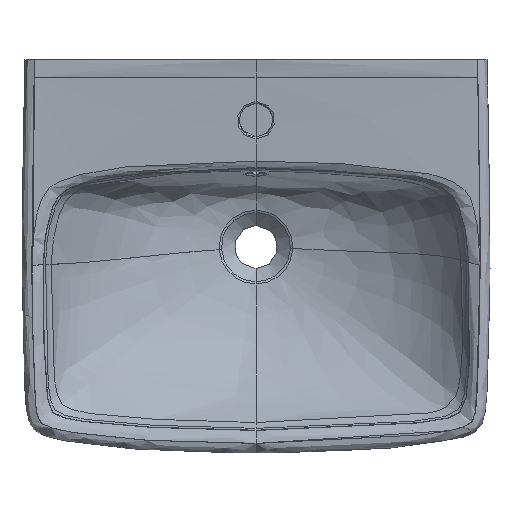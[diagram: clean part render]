
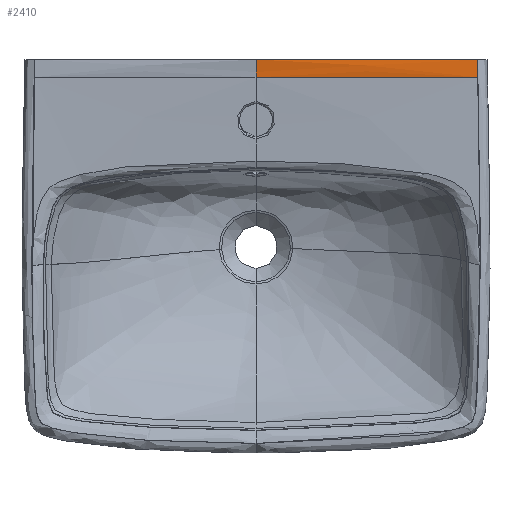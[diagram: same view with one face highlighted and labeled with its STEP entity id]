
A CAD part, top view. The second image highlights one B-rep face of the part: STEP entity #2410.
In plain terms, the highlighted free-form (B-spline) face has degree [3, 3] with [4, 5] control points.
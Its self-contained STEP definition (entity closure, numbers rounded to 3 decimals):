
#110=B_SPLINE_CURVE_WITH_KNOTS('',3,(#3652,#3653,#3654,#3655,#3656),
 .UNSPECIFIED.,.F.,.F.,(4,1,4),(0.,0.5,1.),
 .UNSPECIFIED.);
#255=B_SPLINE_CURVE_WITH_KNOTS('',3,(#43324,#43325,#43326,#43327,#43328,
#43329,#43330,#43331,#43332,#43333,#43334,#43335,#43336,#43337,#43338,#43339,
#43340,#43341,#43342,#43343,#43344,#43345,#43346,#43347,#43348,#43349,#43350,
#43351),.UNSPECIFIED.,.F.,.F.,(4,3,3,3,3,3,3,3,3,4),(0.,2.503,
5.495,8.686,11.3,11.877,11.877,
15.341,19.998,23.653),.UNSPECIFIED.);
#258=B_SPLINE_CURVE_WITH_KNOTS('',3,(#44413,#44414,#44415,#44416),
 .UNSPECIFIED.,.F.,.F.,(4,4),(0.,1.),.UNSPECIFIED.);
#259=B_SPLINE_CURVE_WITH_KNOTS('',3,(#44418,#44419,#44420,#44421),
 .UNSPECIFIED.,.F.,.F.,(4,4),(0.,1.),.UNSPECIFIED.);
#260=B_SPLINE_CURVE_WITH_KNOTS('',3,(#44423,#44424,#44425,#44426),
 .UNSPECIFIED.,.F.,.F.,(4,4),(0.,1.),.UNSPECIFIED.);
#261=B_SPLINE_CURVE_WITH_KNOTS('',3,(#44427,#44428,#44429,#44430),
 .UNSPECIFIED.,.F.,.F.,(4,4),(0.,1.),.UNSPECIFIED.);
#353=B_SPLINE_SURFACE_WITH_KNOTS('',3,3,((#44391,#44392,#44393,#44394,#44395),
(#44396,#44397,#44398,#44399,#44400),(#44401,#44402,#44403,#44404,#44405),
(#44406,#44407,#44408,#44409,#44410)),.UNSPECIFIED.,.F.,.F.,.F.,(4,4),(4,
1,4),(0.,1.),(0.,0.5,1.),.UNSPECIFIED.);
#558=FACE_OUTER_BOUND('',#710,.T.);
#710=EDGE_LOOP('',(#1935,#1936,#1937,#1938,#1939,#1940,#1941));
#797=LINE('',#44412,#849);
#849=VECTOR('',#2791,0.002);
#880=VERTEX_POINT('',#2919);
#884=VERTEX_POINT('',#3643);
#1025=VERTEX_POINT('',#43297);
#1026=VERTEX_POINT('',#43323);
#1027=VERTEX_POINT('',#44411);
#1028=VERTEX_POINT('',#44417);
#1029=VERTEX_POINT('',#44422);
#1106=EDGE_CURVE('',#880,#884,#110,.T.);
#1334=EDGE_CURVE('',#1026,#1025,#255,.T.);
#1337=EDGE_CURVE('',#1027,#884,#797,.T.);
#1338=EDGE_CURVE('',#1026,#1027,#258,.T.);
#1339=EDGE_CURVE('',#1028,#1025,#259,.T.);
#1340=EDGE_CURVE('',#1029,#1028,#260,.T.);
#1341=EDGE_CURVE('',#880,#1029,#261,.T.);
#1935=ORIENTED_EDGE('',*,*,#1106,.T.);
#1936=ORIENTED_EDGE('',*,*,#1337,.F.);
#1937=ORIENTED_EDGE('',*,*,#1338,.F.);
#1938=ORIENTED_EDGE('',*,*,#1334,.T.);
#1939=ORIENTED_EDGE('',*,*,#1339,.F.);
#1940=ORIENTED_EDGE('',*,*,#1340,.F.);
#1941=ORIENTED_EDGE('',*,*,#1341,.F.);
#2410=ADVANCED_FACE('',(#558),#353,.T.);
#2791=DIRECTION('',(0.032,-0.999,0.));
#2919=CARTESIAN_POINT('',(0.,-18.997,847.914));
#3643=CARTESIAN_POINT('',(236.94,-19.003,847.998));
#3652=CARTESIAN_POINT('Ctrl Pts',(0.,-18.997,
847.914));
#3653=CARTESIAN_POINT('Ctrl Pts',(39.354,-18.998,847.914));
#3654=CARTESIAN_POINT('Ctrl Pts',(118.181,-19.,848.775));
#3655=CARTESIAN_POINT('Ctrl Pts',(197.297,-19.002,848.851));
#3656=CARTESIAN_POINT('Ctrl Pts',(236.94,-19.003,847.998));
#43297=CARTESIAN_POINT('',(-0.003,0.,850.));
#43323=CARTESIAN_POINT('',(236.3,0.,848.));
#43324=CARTESIAN_POINT('Ctrl Pts',(236.3,0.,
848.));
#43325=CARTESIAN_POINT('Ctrl Pts',(227.958,0.,
848.22));
#43326=CARTESIAN_POINT('Ctrl Pts',(219.628,0.,
848.416));
#43327=CARTESIAN_POINT('Ctrl Pts',(211.303,0.,
848.591));
#43328=CARTESIAN_POINT('Ctrl Pts',(201.355,0.,
848.8));
#43329=CARTESIAN_POINT('Ctrl Pts',(191.416,0.,
848.978));
#43330=CARTESIAN_POINT('Ctrl Pts',(181.476,0.,
849.13));
#43331=CARTESIAN_POINT('Ctrl Pts',(170.873,0.,
849.293));
#43332=CARTESIAN_POINT('Ctrl Pts',(160.27,0.,
849.425));
#43333=CARTESIAN_POINT('Ctrl Pts',(149.654,0.,849.534));
#43334=CARTESIAN_POINT('Ctrl Pts',(140.959,0.,
849.622));
#43335=CARTESIAN_POINT('Ctrl Pts',(132.256,0.,
849.694));
#43336=CARTESIAN_POINT('Ctrl Pts',(123.539,0.,
849.753));
#43337=CARTESIAN_POINT('Ctrl Pts',(121.614,0.,
849.766));
#43338=CARTESIAN_POINT('Ctrl Pts',(119.689,0.,
849.778));
#43339=CARTESIAN_POINT('Ctrl Pts',(117.763,0.,
849.79));
#43340=CARTESIAN_POINT('Ctrl Pts',(117.762,0.,
849.79));
#43341=CARTESIAN_POINT('Ctrl Pts',(117.762,0.,
849.79));
#43342=CARTESIAN_POINT('Ctrl Pts',(117.762,0.,
849.79));
#43343=CARTESIAN_POINT('Ctrl Pts',(106.201,0.,
849.86));
#43344=CARTESIAN_POINT('Ctrl Pts',(94.649,0.,
849.907));
#43345=CARTESIAN_POINT('Ctrl Pts',(83.101,0.,
849.938));
#43346=CARTESIAN_POINT('Ctrl Pts',(67.58,0.,
849.98));
#43347=CARTESIAN_POINT('Ctrl Pts',(52.065,0.,
849.995));
#43348=CARTESIAN_POINT('Ctrl Pts',(36.55,0.,
849.999));
#43349=CARTESIAN_POINT('Ctrl Pts',(24.368,0.,
850.003));
#43350=CARTESIAN_POINT('Ctrl Pts',(12.185,0.,
850.));
#43351=CARTESIAN_POINT('Ctrl Pts',(-0.003,0.,
850.));
#44391=CARTESIAN_POINT('Ctrl Pts',(236.941,-19.003,847.998));
#44392=CARTESIAN_POINT('Ctrl Pts',(197.298,-19.002,848.851));
#44393=CARTESIAN_POINT('Ctrl Pts',(118.181,-19.,848.775));
#44394=CARTESIAN_POINT('Ctrl Pts',(39.352,-18.998,847.914));
#44395=CARTESIAN_POINT('Ctrl Pts',(-0.003,-18.997,
847.914));
#44396=CARTESIAN_POINT('Ctrl Pts',(236.738,-12.672,847.999));
#44397=CARTESIAN_POINT('Ctrl Pts',(197.043,-12.665,848.919));
#44398=CARTESIAN_POINT('Ctrl Pts',(118.003,-12.653,848.966));
#44399=CARTESIAN_POINT('Ctrl Pts',(39.33,-12.635,848.148));
#44400=CARTESIAN_POINT('Ctrl Pts',(-0.003,-12.631,
848.148));
#44401=CARTESIAN_POINT('Ctrl Pts',(236.525,-6.338,848.));
#44402=CARTESIAN_POINT('Ctrl Pts',(196.776,-6.337,848.986));
#44403=CARTESIAN_POINT('Ctrl Pts',(117.819,-6.339,849.624));
#44404=CARTESIAN_POINT('Ctrl Pts',(39.307,-6.333,849.305));
#44405=CARTESIAN_POINT('Ctrl Pts',(-0.003,-6.332,
849.305));
#44406=CARTESIAN_POINT('Ctrl Pts',(236.3,0.,
848.));
#44407=CARTESIAN_POINT('Ctrl Pts',(196.501,0.,
849.05));
#44408=CARTESIAN_POINT('Ctrl Pts',(117.633,0.,
850.055));
#44409=CARTESIAN_POINT('Ctrl Pts',(39.281,0.,
850.));
#44410=CARTESIAN_POINT('Ctrl Pts',(-0.003,0.,
850.));
#44411=CARTESIAN_POINT('',(236.94,-19.001,847.998));
#44412=CARTESIAN_POINT('',(236.94,-19.001,847.998));
#44413=CARTESIAN_POINT('Ctrl Pts',(236.3,0.,
848.));
#44414=CARTESIAN_POINT('Ctrl Pts',(236.524,-6.333,848.));
#44415=CARTESIAN_POINT('Ctrl Pts',(236.738,-12.667,847.999));
#44416=CARTESIAN_POINT('Ctrl Pts',(236.94,-19.001,847.998));
#44417=CARTESIAN_POINT('',(0.,-1.105,849.874));
#44418=CARTESIAN_POINT('Ctrl Pts',(0.,-1.105,
849.874));
#44419=CARTESIAN_POINT('Ctrl Pts',(0.,-0.737,
849.918));
#44420=CARTESIAN_POINT('Ctrl Pts',(0.,-0.368,
849.96));
#44421=CARTESIAN_POINT('Ctrl Pts',(-0.003,0.,
850.));
#44422=CARTESIAN_POINT('',(0.,-13.315,848.333));
#44423=CARTESIAN_POINT('Ctrl Pts',(0.,-13.315,
848.333));
#44424=CARTESIAN_POINT('Ctrl Pts',(0.,-9.239,
848.759));
#44425=CARTESIAN_POINT('Ctrl Pts',(0.,-5.178,
849.395));
#44426=CARTESIAN_POINT('Ctrl Pts',(0.,-1.105,
849.874));
#44427=CARTESIAN_POINT('Ctrl Pts',(0.,-18.997,
847.914));
#44428=CARTESIAN_POINT('Ctrl Pts',(0.,-17.098,
847.984));
#44429=CARTESIAN_POINT('Ctrl Pts',(0.,-15.205,
848.136));
#44430=CARTESIAN_POINT('Ctrl Pts',(0.,-13.315,
848.333));
